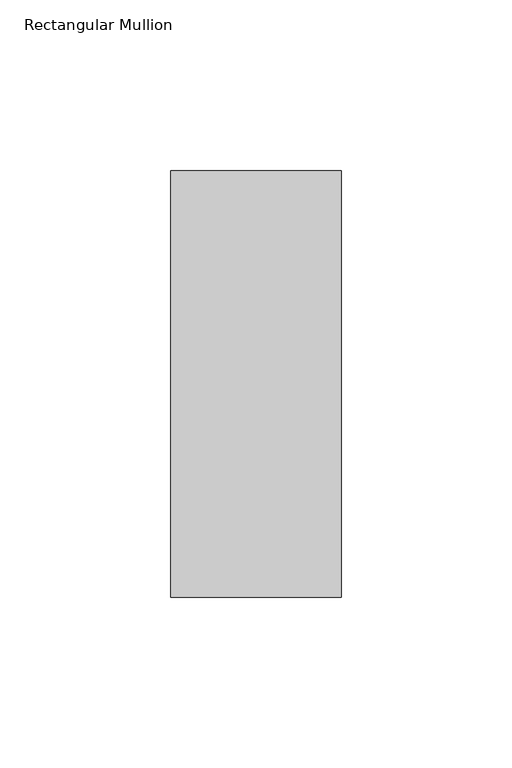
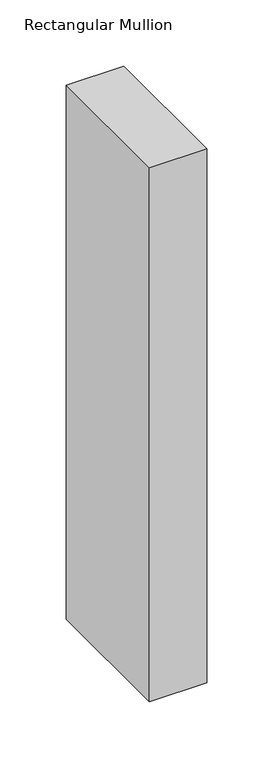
"""IFC4 building model written with IfcOpenShell, lengths in millimetres: member geometry, Rectangular Mullion : DucoSun Cubic Design profile 50x125 for louvre 300."""

from ifc_helpers import new_model, si_unit, frame, origin, place, context, project, spatial, polyline, outline, extrude, source, transform, mapped, element, save


def rectangular_mullion_0bb7a928(model_context):
    return source(origin(), model_context, "Body", "SweptSolid", [
        extrude(outline(polyline([(-50.0, 87.5), (-50.0, 212.5), (0.0, 212.5), (0.0, 87.5), (-50.0, 87.5)])), frame((0.0, 0.0, -491.4999999), z_axis=(0.0, 0.0, 1.0), x_axis=(1.0, 0.0, 0.0)), (0.0, 0.0, 1.0), 491.4999999),
    ])


if __name__ == "__main__":
    model = new_model("IFC4")
    model_context = context("Model", 3, world=origin())
    ifc_project = project(units=[si_unit("LENGTHUNIT", "METRE", prefix="MILLI")], contexts=[model_context])
    site = spatial("IfcSite", under=ifc_project)
    building = spatial("IfcBuilding", under=site)
    placement = place(None, origin())
    rectangular_mullion_shape = rectangular_mullion_0bb7a928(model_context)
    element("IfcMember", 1, ObjectType="Rectangular Mullion : DucoSun Cubic Design profile 50x125 for louvre 300", at=placement, inside=building, context=model_context, shape_type="MappedRepresentation", body=[
        mapped(rectangular_mullion_shape, transform((0.0, 0.0, 0.0), x_axis=(1.0, 0.0, 0.0), y_axis=(0.0, 1.0, 0.0), z_axis=(0.0, 0.0, 1.0))),
    ])
    save(model, "model.ifc")
